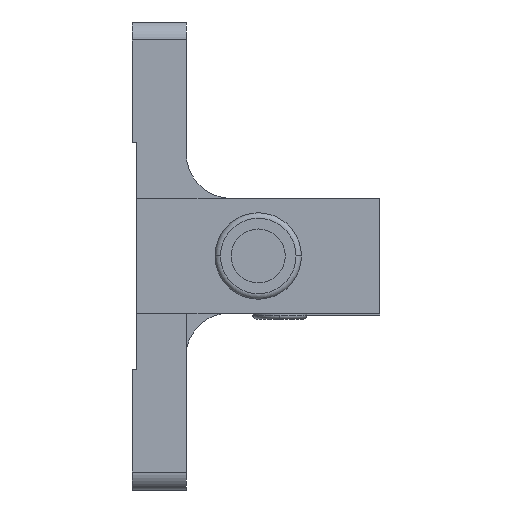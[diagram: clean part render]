
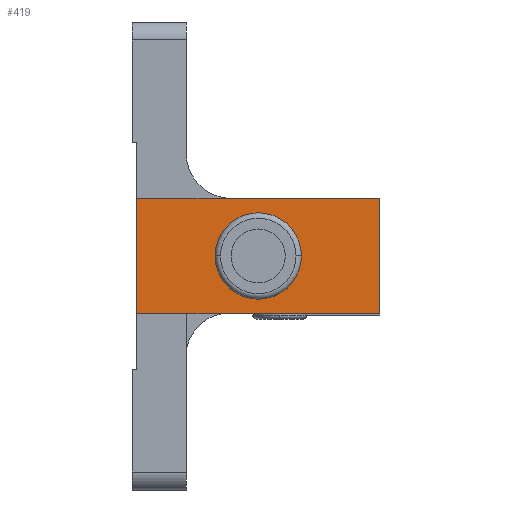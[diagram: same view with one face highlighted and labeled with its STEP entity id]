
A CAD part, left-side view. The second image highlights one B-rep face of the part: STEP entity #419.
In plain terms, the highlighted planar face has unit normal (-1, 0, 0).
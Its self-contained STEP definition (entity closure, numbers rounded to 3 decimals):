
#26 = CARTESIAN_POINT ( 'NONE',  ( 0., -13.9, 0.4 ) ) ;
#44 = CIRCLE ( 'NONE', #2829, 2.4 ) ;
#75 = ORIENTED_EDGE ( 'NONE', *, *, #2781, .T. ) ;
#77 = DIRECTION ( 'NONE',  ( 1., 0., 0. ) ) ;
#81 = CARTESIAN_POINT ( 'NONE',  ( 0., -4.75, 3.6 ) ) ;
#142 = FACE_BOUND ( 'NONE', #334, .T. ) ;
#174 = LINE ( 'NONE', #2806, #703 ) ;
#240 = CARTESIAN_POINT ( 'NONE',  ( 0., -9.55, 3.6 ) ) ;
#290 = CARTESIAN_POINT ( 'NONE',  ( 0., -7.15, 3.6 ) ) ;
#308 = VERTEX_POINT ( 'NONE', #2619 ) ;
#334 = EDGE_LOOP ( 'NONE', ( #2521, #877 ) ) ;
#405 = DIRECTION ( 'NONE',  ( 0., -1., 0. ) ) ;
#419 = ADVANCED_FACE ( 'NONE', ( #142, #1794 ), #1610, .F. ) ;
#473 = LINE ( 'NONE', #1362, #556 ) ;
#502 = ORIENTED_EDGE ( 'NONE', *, *, #1453, .T. ) ;
#503 = DIRECTION ( 'NONE',  ( 0., 1., 0. ) ) ;
#534 = AXIS2_PLACEMENT_3D ( 'NONE', #1754, #2295, #3330 ) ;
#556 = VECTOR ( 'NONE', #1119, 1000. ) ;
#703 = VECTOR ( 'NONE', #503, 1000. ) ;
#755 = EDGE_CURVE ( 'NONE', #1640, #2765, #473, .T. ) ;
#877 = ORIENTED_EDGE ( 'NONE', *, *, #1644, .F. ) ;
#936 = CARTESIAN_POINT ( 'NONE',  ( 0., -13.9, 6.8 ) ) ;
#1058 = DIRECTION ( 'NONE',  ( 0., 1., 0. ) ) ;
#1092 = ORIENTED_EDGE ( 'NONE', *, *, #3277, .T. ) ;
#1108 = CARTESIAN_POINT ( 'NONE',  ( 0., 0., 7.2 ) ) ;
#1119 = DIRECTION ( 'NONE',  ( 0., 0., 1. ) ) ;
#1153 = DIRECTION ( 'NONE',  ( 0., 1., 0. ) ) ;
#1187 = CARTESIAN_POINT ( 'NONE',  ( 0., -13.9, 0.4 ) ) ;
#1362 = CARTESIAN_POINT ( 'NONE',  ( 0., -13.9, 0.4 ) ) ;
#1439 = CARTESIAN_POINT ( 'NONE',  ( 0., -0.4, 0.4 ) ) ;
#1453 = EDGE_CURVE ( 'NONE', #3027, #1640, #2192, .T. ) ;
#1502 = VECTOR ( 'NONE', #405, 1000. ) ;
#1581 = CIRCLE ( 'NONE', #534, 2.4 ) ;
#1610 = PLANE ( 'NONE',  #1704 ) ;
#1640 = VERTEX_POINT ( 'NONE', #26 ) ;
#1644 = EDGE_CURVE ( 'NONE', #2391, #2004, #44, .T. ) ;
#1704 = AXIS2_PLACEMENT_3D ( 'NONE', #1108, #77, #1153 ) ;
#1754 = CARTESIAN_POINT ( 'NONE',  ( 0., -7.15, 3.6 ) ) ;
#1790 = ORIENTED_EDGE ( 'NONE', *, *, #755, .T. ) ;
#1794 = FACE_OUTER_BOUND ( 'NONE', #2913, .T. ) ;
#2004 = VERTEX_POINT ( 'NONE', #81 ) ;
#2192 = LINE ( 'NONE', #1187, #1502 ) ;
#2212 = DIRECTION ( 'NONE',  ( 0., 0., -1. ) ) ;
#2295 = DIRECTION ( 'NONE',  ( -1., 0., 0. ) ) ;
#2354 = CARTESIAN_POINT ( 'NONE',  ( 0., -0.4, 0.4 ) ) ;
#2355 = DIRECTION ( 'NONE',  ( -1., 0., 0. ) ) ;
#2391 = VERTEX_POINT ( 'NONE', #240 ) ;
#2521 = ORIENTED_EDGE ( 'NONE', *, *, #2894, .F. ) ;
#2619 = CARTESIAN_POINT ( 'NONE',  ( 0., -0.4, 6.8 ) ) ;
#2739 = VECTOR ( 'NONE', #2212, 1000. ) ;
#2765 = VERTEX_POINT ( 'NONE', #936 ) ;
#2781 = EDGE_CURVE ( 'NONE', #308, #3027, #2998, .T. ) ;
#2806 = CARTESIAN_POINT ( 'NONE',  ( 0., -13.9, 6.8 ) ) ;
#2829 = AXIS2_PLACEMENT_3D ( 'NONE', #290, #2355, #1058 ) ;
#2894 = EDGE_CURVE ( 'NONE', #2004, #2391, #1581, .T. ) ;
#2913 = EDGE_LOOP ( 'NONE', ( #502, #1790, #1092, #75 ) ) ;
#2998 = LINE ( 'NONE', #1439, #2739 ) ;
#3027 = VERTEX_POINT ( 'NONE', #2354 ) ;
#3277 = EDGE_CURVE ( 'NONE', #2765, #308, #174, .T. ) ;
#3330 = DIRECTION ( 'NONE',  ( 0., 1., 0. ) ) ;
